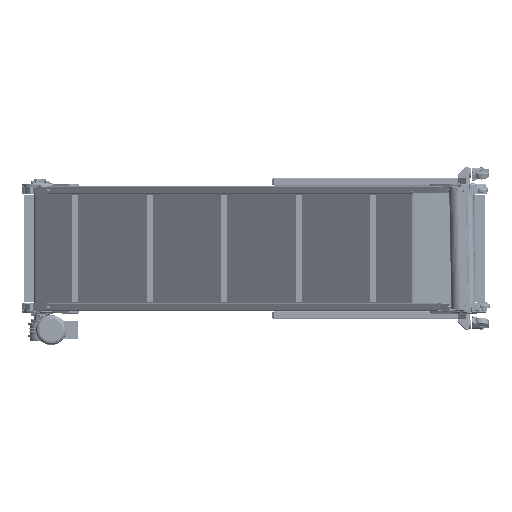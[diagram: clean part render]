
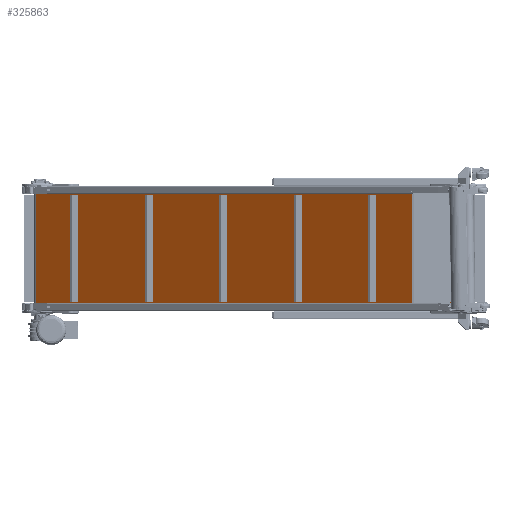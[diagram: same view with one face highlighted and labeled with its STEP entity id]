
A CAD part, left-side view. The second image highlights one B-rep face of the part: STEP entity #325863.
In plain terms, the highlighted planar face has unit normal (-0.766, 0.643, 0).
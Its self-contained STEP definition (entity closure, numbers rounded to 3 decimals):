
#15083 = CARTESIAN_POINT ( 'NONE',  ( 1806.196, 1778.543, 246.5 ) ) ;
#26817 = DIRECTION ( 'NONE',  ( -0.643, -0.766, 0. ) ) ;
#29193 = DIRECTION ( 'NONE',  ( 0., 0., -1. ) ) ;
#37822 = CARTESIAN_POINT ( 'NONE',  ( 342.772, 34.501, 246.5 ) ) ;
#66948 = CARTESIAN_POINT ( 'NONE',  ( 1806.196, 1778.543, 246.5 ) ) ;
#71572 = CARTESIAN_POINT ( 'NONE',  ( 1761.201, 1724.92, 246.5 ) ) ;
#86088 = VERTEX_POINT ( 'NONE', #37822 ) ;
#93228 = CARTESIAN_POINT ( 'NONE',  ( 342.772, 34.501, -246.5 ) ) ;
#113286 = LINE ( 'NONE', #71572, #405174 ) ;
#150345 = VERTEX_POINT ( 'NONE', #416008 ) ;
#163547 = PLANE ( 'NONE',  #303336 ) ;
#211218 = FACE_OUTER_BOUND ( 'NONE', #387445, .T. ) ;
#230332 = DIRECTION ( 'NONE',  ( -0.643, -0.766, 0. ) ) ;
#240075 = EDGE_CURVE ( 'NONE', #86088, #150345, #255764, .T. ) ;
#252829 = CARTESIAN_POINT ( 'NONE',  ( 342.772, 34.501, 246.5 ) ) ;
#255764 = LINE ( 'NONE', #252829, #455365 ) ;
#255892 = DIRECTION ( 'NONE',  ( 0.766, -0.643, 0. ) ) ;
#257721 = EDGE_CURVE ( 'NONE', #355749, #150345, #501527, .T. ) ;
#286273 = DIRECTION ( 'NONE',  ( 0., 0., -1. ) ) ;
#296726 = ORIENTED_EDGE ( 'NONE', *, *, #397906, .T. ) ;
#303336 = AXIS2_PLACEMENT_3D ( 'NONE', #345346, #255892, #348276 ) ;
#325863 = ADVANCED_FACE ( 'NONE', ( #211218 ), #163547, .F. ) ;
#331031 = LINE ( 'NONE', #15083, #414000 ) ;
#345346 = CARTESIAN_POINT ( 'NONE',  ( 342.772, 34.501, 246.5 ) ) ;
#348276 = DIRECTION ( 'NONE',  ( 0.643, 0.766, 0. ) ) ;
#355749 = VERTEX_POINT ( 'NONE', #508243 ) ;
#387445 = EDGE_LOOP ( 'NONE', ( #566944, #445220, #451192, #296726 ) ) ;
#395895 = VERTEX_POINT ( 'NONE', #66948 ) ;
#397906 = EDGE_CURVE ( 'NONE', #395895, #355749, #331031, .T. ) ;
#405174 = VECTOR ( 'NONE', #26817, 1000. ) ;
#414000 = VECTOR ( 'NONE', #286273, 1000. ) ;
#416008 = CARTESIAN_POINT ( 'NONE',  ( 342.772, 34.501, -246.5 ) ) ;
#433475 = EDGE_CURVE ( 'NONE', #395895, #86088, #113286, .T. ) ;
#445220 = ORIENTED_EDGE ( 'NONE', *, *, #240075, .F. ) ;
#451192 = ORIENTED_EDGE ( 'NONE', *, *, #433475, .F. ) ;
#455365 = VECTOR ( 'NONE', #29193, 1000. ) ;
#497491 = VECTOR ( 'NONE', #230332, 1000. ) ;
#501527 = LINE ( 'NONE', #93228, #497491 ) ;
#508243 = CARTESIAN_POINT ( 'NONE',  ( 1806.196, 1778.543, -246.5 ) ) ;
#566944 = ORIENTED_EDGE ( 'NONE', *, *, #257721, .T. ) ;
